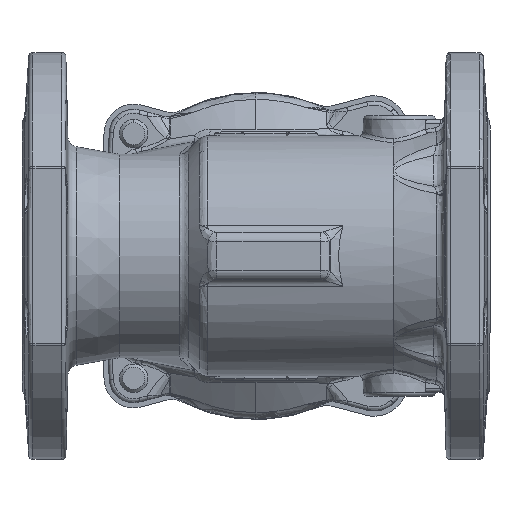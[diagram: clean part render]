
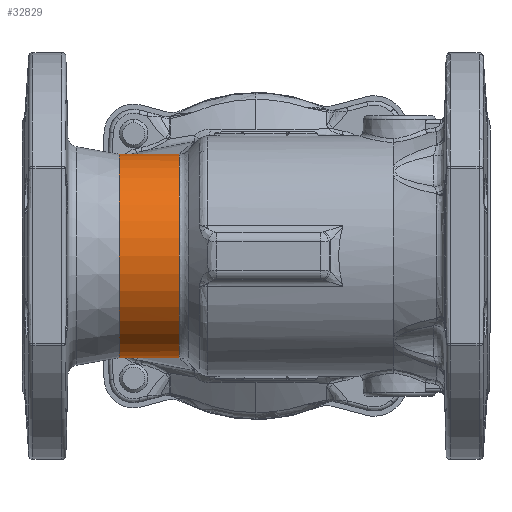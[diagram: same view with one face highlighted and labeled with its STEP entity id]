
A CAD part, front view. The second image highlights one B-rep face of the part: STEP entity #32829.
In plain terms, the highlighted cylindrical face has radius 50 mm (diameter 100 mm), a partial arc.
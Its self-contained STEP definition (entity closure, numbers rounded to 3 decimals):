
#343 = CARTESIAN_POINT ( 'NONE',  ( -60., 0., 0. ) ) ;
#344 = DIRECTION ( 'NONE',  ( -1., 0., 0. ) ) ;
#345 = DIRECTION ( 'NONE',  ( 0., 0., 1. ) ) ;
#12496 = AXIS2_PLACEMENT_3D ( 'NONE', #343, #344, #345 ) ;
#12731 = AXIS2_PLACEMENT_3D ( 'NONE', #23410, #23411, #23412 ) ;
#12948 = LINE ( 'NONE', #23380, #13821 ) ;
#12949 = LINE ( 'NONE', #23413, #14158 ) ;
#13817 = CIRCLE ( 'NONE', #12731, 50. ) ;
#13821 = VECTOR ( 'NONE', #23381, 1000. ) ;
#14156 = CIRCLE ( 'NONE', #14162, 50. ) ;
#14158 = VECTOR ( 'NONE', #23414, 1000. ) ;
#14162 = AXIS2_PLACEMENT_3D ( 'NONE', #23423, #23424, #23425 ) ;
#18220 = B_SPLINE_CURVE_WITH_KNOTS ( 'NONE', 3,
 ( #23419, #23420, #23421, #23422 ),
 .UNSPECIFIED., .F., .F.,
 ( 4, 4 ),
 ( 0., 0.02 ),
 .UNSPECIFIED. ) ;
#18221 = B_SPLINE_CURVE_WITH_KNOTS ( 'NONE', 3,
 ( #23415, #23416, #23417, #23418 ),
 .UNSPECIFIED., .F., .F.,
 ( 4, 4 ),
 ( 0.02, 0.02 ),
 .UNSPECIFIED. ) ;
#18224 = B_SPLINE_CURVE_WITH_KNOTS ( 'NONE', 3,
 ( #23426, #23427, #23428, #23429 ),
 .UNSPECIFIED., .F., .F.,
 ( 4, 4 ),
 ( 0., 0.02 ),
 .UNSPECIFIED. ) ;
#18225 = B_SPLINE_CURVE_WITH_KNOTS ( 'NONE', 3,
 ( #23430, #23431, #23432, #23433 ),
 .UNSPECIFIED., .F., .F.,
 ( 4, 4 ),
 ( 0.02, 0.02 ),
 .UNSPECIFIED. ) ;
#23380 = CARTESIAN_POINT ( 'NONE',  ( -60., 0., -50. ) ) ;
#23381 = DIRECTION ( 'NONE',  ( -1., 0., 0. ) ) ;
#23410 = CARTESIAN_POINT ( 'NONE',  ( 67.31, 0., 0. ) ) ;
#23411 = DIRECTION ( 'NONE',  ( -1., 0., 0. ) ) ;
#23412 = DIRECTION ( 'NONE',  ( 0., 0., 1. ) ) ;
#23413 = CARTESIAN_POINT ( 'NONE',  ( -60., 0., 50. ) ) ;
#23414 = DIRECTION ( 'NONE',  ( -1., 0., 0. ) ) ;
#23415 = CARTESIAN_POINT ( 'NONE',  ( 57.648, 0., 50. ) ) ;
#23416 = CARTESIAN_POINT ( 'NONE',  ( 57.586, -0.033, 50. ) ) ;
#23417 = CARTESIAN_POINT ( 'NONE',  ( 57.518, -0.056, 50. ) ) ;
#23418 = CARTESIAN_POINT ( 'NONE',  ( 57.447, -0.057, 50. ) ) ;
#23419 = CARTESIAN_POINT ( 'NONE',  ( 57.447, -0.057, 50. ) ) ;
#23420 = CARTESIAN_POINT ( 'NONE',  ( 50.841, -0.131, 50. ) ) ;
#23421 = CARTESIAN_POINT ( 'NONE',  ( 44.234, -0.206, 50. ) ) ;
#23422 = CARTESIAN_POINT ( 'NONE',  ( 37.627, -0.28, 49.999 ) ) ;
#23423 = CARTESIAN_POINT ( 'NONE',  ( 37.627, 0., 0. ) ) ;
#23424 = DIRECTION ( 'NONE',  ( -1., 0., 0. ) ) ;
#23425 = DIRECTION ( 'NONE',  ( 0., 0., 1. ) ) ;
#23426 = CARTESIAN_POINT ( 'NONE',  ( 57.447, -0.057, -50. ) ) ;
#23427 = CARTESIAN_POINT ( 'NONE',  ( 50.841, -0.131, -50. ) ) ;
#23428 = CARTESIAN_POINT ( 'NONE',  ( 44.234, -0.206, -50. ) ) ;
#23429 = CARTESIAN_POINT ( 'NONE',  ( 37.627, -0.28, -49.999 ) ) ;
#23430 = CARTESIAN_POINT ( 'NONE',  ( 57.648, 0., -50. ) ) ;
#23431 = CARTESIAN_POINT ( 'NONE',  ( 57.586, -0.033, -50. ) ) ;
#23432 = CARTESIAN_POINT ( 'NONE',  ( 57.518, -0.056, -50. ) ) ;
#23433 = CARTESIAN_POINT ( 'NONE',  ( 57.447, -0.057, -50. ) ) ;
#29775 = EDGE_LOOP ( 'NONE', ( #35797, #35799, #35798, #35800, #35801, #35802, #35803, #35804 ) ) ;
#32829 = ADVANCED_FACE ( 'NONE', ( #78896 ), #78895, .T. ) ;
#35797 = ORIENTED_EDGE ( 'NONE', *, *, #37045, .F. ) ;
#35798 = ORIENTED_EDGE ( 'NONE', *, *, #37049, .T. ) ;
#35799 = ORIENTED_EDGE ( 'NONE', *, *, #37048, .T. ) ;
#35800 = ORIENTED_EDGE ( 'NONE', *, *, #37050, .T. ) ;
#35801 = ORIENTED_EDGE ( 'NONE', *, *, #37051, .T. ) ;
#35802 = ORIENTED_EDGE ( 'NONE', *, *, #37052, .F. ) ;
#35803 = ORIENTED_EDGE ( 'NONE', *, *, #37053, .F. ) ;
#35804 = ORIENTED_EDGE ( 'NONE', *, *, #37054, .F. ) ;
#37045 = EDGE_CURVE ( 'NONE', #83823, #83819, #12948, .T. ) ;
#37048 = EDGE_CURVE ( 'NONE', #83823, #83825, #13817, .T. ) ;
#37049 = EDGE_CURVE ( 'NONE', #83825, #83817, #12949, .T. ) ;
#37050 = EDGE_CURVE ( 'NONE', #83817, #83816, #18221, .T. ) ;
#37051 = EDGE_CURVE ( 'NONE', #83816, #83815, #18220, .T. ) ;
#37052 = EDGE_CURVE ( 'NONE', #83814, #83815, #14156, .T. ) ;
#37053 = EDGE_CURVE ( 'NONE', #83813, #83814, #18224, .T. ) ;
#37054 = EDGE_CURVE ( 'NONE', #83819, #83813, #18225, .T. ) ;
#46951 = CARTESIAN_POINT ( 'NONE',  ( 57.447, -0.057, -50. ) ) ;
#46952 = CARTESIAN_POINT ( 'NONE',  ( 37.627, -0.28, -49.999 ) ) ;
#46953 = CARTESIAN_POINT ( 'NONE',  ( 37.627, -0.28, 49.999 ) ) ;
#46954 = CARTESIAN_POINT ( 'NONE',  ( 57.447, -0.057, 50. ) ) ;
#46955 = CARTESIAN_POINT ( 'NONE',  ( 57.648, 0., 50. ) ) ;
#46957 = CARTESIAN_POINT ( 'NONE',  ( 57.648, 0., -50. ) ) ;
#46961 = CARTESIAN_POINT ( 'NONE',  ( 67.31, 0., -50. ) ) ;
#46963 = CARTESIAN_POINT ( 'NONE',  ( 67.31, 0., 50. ) ) ;
#78895 = CYLINDRICAL_SURFACE ( 'NONE', #12496, 50. ) ;
#78896 = FACE_OUTER_BOUND ( 'NONE', #29775, .T. ) ;
#83813 = VERTEX_POINT ( 'NONE', #46951 ) ;
#83814 = VERTEX_POINT ( 'NONE', #46952 ) ;
#83815 = VERTEX_POINT ( 'NONE', #46953 ) ;
#83816 = VERTEX_POINT ( 'NONE', #46954 ) ;
#83817 = VERTEX_POINT ( 'NONE', #46955 ) ;
#83819 = VERTEX_POINT ( 'NONE', #46957 ) ;
#83823 = VERTEX_POINT ( 'NONE', #46961 ) ;
#83825 = VERTEX_POINT ( 'NONE', #46963 ) ;
